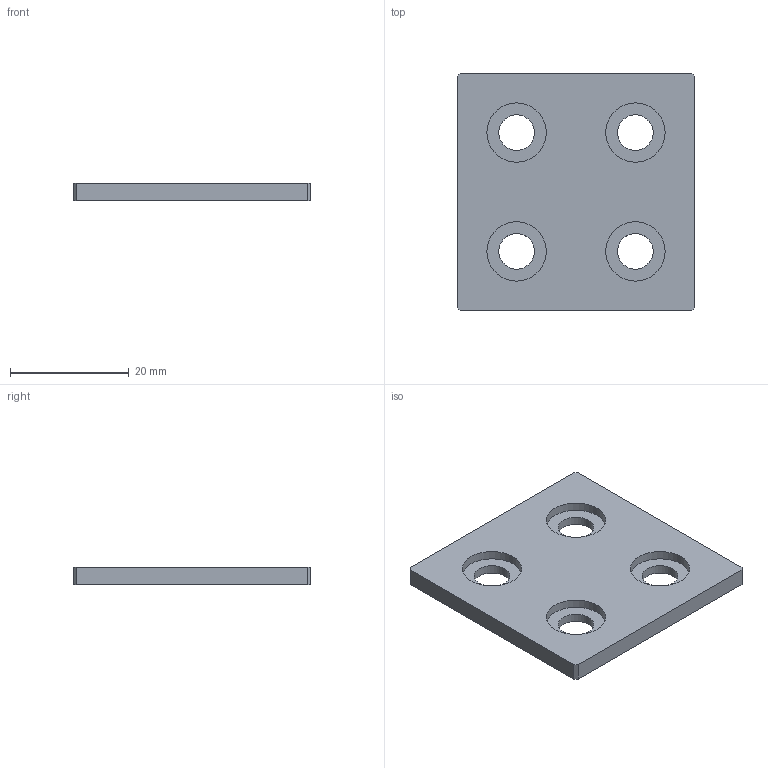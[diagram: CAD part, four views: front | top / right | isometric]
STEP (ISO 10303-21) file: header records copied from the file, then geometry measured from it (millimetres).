
FILE_DESCRIPTION(/* description */ (''),/* implementation_level */ '2;1');
FILE_NAME(/* name */ 'Aluminium End Cap - 20 Series - 40x40 - With Fixings.step',/* time_stamp */ '2025-05-12T23:20:36+03:00',/* author */ (''),/* organization */ (''),/* preprocessor_version */ 'ST-DEVELOPER v20.1',/* originating_system */ 'Autodesk Translation Framework v14.4.0.0',/* authorisation */ '');
FILE_SCHEMA (('AUTOMOTIVE_DESIGN { 1 0 10303 214 3 1 1 }'));
Length unit declared in the file: millimetre
Products named in the file (1): Endcap-40x40
Bounding box: 40 x 40 x 3 mm (x, y, z)
Volume: 4157.6 mm3; surface area: 3750.9 mm2
Topology: 1 solids, 1 shells, 22 faces, 48 edges, 32 vertices
Faces by surface type: plane 14, cylinder 8
Full cylindrical faces by diameter (mm): 6 x4, 10 x4
Entity records: 664 total; most frequent: DIRECTION 110, CARTESIAN_POINT 103, ORIENTED_EDGE 96, EDGE_CURVE 48, AXIS2_PLACEMENT_3D 39, EDGE_LOOP 34, LINE 32, VECTOR 32
